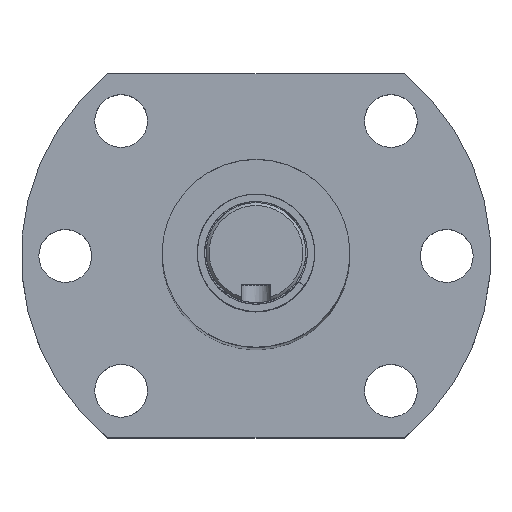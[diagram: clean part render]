
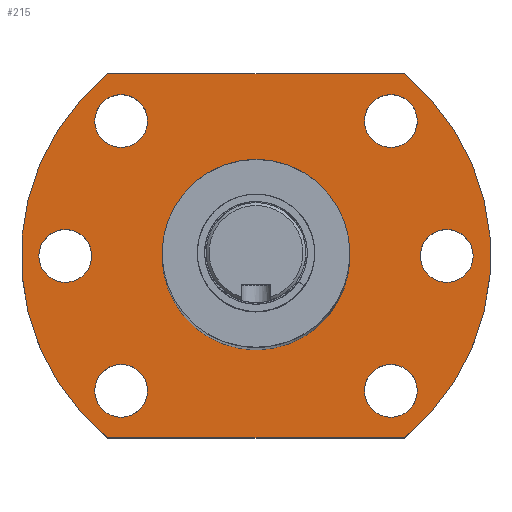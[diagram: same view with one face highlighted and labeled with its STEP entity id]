
A CAD part, top view. The second image highlights one B-rep face of the part: STEP entity #215.
In plain terms, the highlighted planar face has unit normal (0, 0, 1).
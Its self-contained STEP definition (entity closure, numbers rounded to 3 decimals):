
#131=LINE('',#2621,#159);
#132=LINE('',#2626,#160);
#159=VECTOR('',#955,1.);
#160=VECTOR('',#958,1.);
#215=ADVANCED_FACE('',(#279,#280,#281,#282,#283,#284,#285,#286),#248,.T.);
#248=PLANE('',#801);
#279=FACE_BOUND('',#357,.T.);
#280=FACE_BOUND('',#358,.T.);
#281=FACE_BOUND('',#359,.T.);
#282=FACE_BOUND('',#360,.T.);
#283=FACE_BOUND('',#361,.T.);
#284=FACE_BOUND('',#362,.T.);
#285=FACE_BOUND('',#363,.T.);
#286=FACE_BOUND('',#364,.T.);
#357=EDGE_LOOP('',(#501));
#358=EDGE_LOOP('',(#502));
#359=EDGE_LOOP('',(#503));
#360=EDGE_LOOP('',(#504,#505,#506,#507));
#361=EDGE_LOOP('',(#508));
#362=EDGE_LOOP('',(#509));
#363=EDGE_LOOP('',(#510));
#364=EDGE_LOOP('',(#511));
#501=ORIENTED_EDGE('',*,*,#673,.T.);
#502=ORIENTED_EDGE('',*,*,#674,.T.);
#503=ORIENTED_EDGE('',*,*,#675,.T.);
#504=ORIENTED_EDGE('',*,*,#676,.T.);
#505=ORIENTED_EDGE('',*,*,#677,.F.);
#506=ORIENTED_EDGE('',*,*,#678,.F.);
#507=ORIENTED_EDGE('',*,*,#679,.F.);
#508=ORIENTED_EDGE('',*,*,#680,.T.);
#509=ORIENTED_EDGE('',*,*,#681,.T.);
#510=ORIENTED_EDGE('',*,*,#682,.T.);
#511=ORIENTED_EDGE('',*,*,#683,.T.);
#596=VERTEX_POINT('',#2616);
#597=VERTEX_POINT('',#2618);
#598=VERTEX_POINT('',#2620);
#599=VERTEX_POINT('',#2622);
#600=VERTEX_POINT('',#2623);
#601=VERTEX_POINT('',#2625);
#602=VERTEX_POINT('',#2627);
#603=VERTEX_POINT('',#2630);
#604=VERTEX_POINT('',#2632);
#605=VERTEX_POINT('',#2634);
#606=VERTEX_POINT('',#2636);
#673=EDGE_CURVE('',#596,#596,#722,.T.);
#674=EDGE_CURVE('',#597,#597,#723,.T.);
#675=EDGE_CURVE('',#598,#598,#724,.T.);
#676=EDGE_CURVE('',#599,#600,#131,.T.);
#677=EDGE_CURVE('',#601,#600,#725,.T.);
#678=EDGE_CURVE('',#602,#601,#132,.T.);
#679=EDGE_CURVE('',#599,#602,#726,.T.);
#680=EDGE_CURVE('',#603,#603,#727,.T.);
#681=EDGE_CURVE('',#604,#604,#728,.T.);
#682=EDGE_CURVE('',#605,#605,#729,.T.);
#683=EDGE_CURVE('',#606,#606,#730,.T.);
#722=CIRCLE('',#792,4.5);
#723=CIRCLE('',#793,4.5);
#724=CIRCLE('',#794,4.5);
#725=CIRCLE('',#795,40.);
#726=CIRCLE('',#796,40.);
#727=CIRCLE('',#797,16.);
#728=CIRCLE('',#798,4.5);
#729=CIRCLE('',#799,4.5);
#730=CIRCLE('',#800,4.5);
#792=AXIS2_PLACEMENT_3D('',#2615,#949,#950);
#793=AXIS2_PLACEMENT_3D('',#2617,#951,#952);
#794=AXIS2_PLACEMENT_3D('',#2619,#953,#954);
#795=AXIS2_PLACEMENT_3D('',#2624,#956,#957);
#796=AXIS2_PLACEMENT_3D('',#2628,#959,#960);
#797=AXIS2_PLACEMENT_3D('',#2629,#961,#962);
#798=AXIS2_PLACEMENT_3D('',#2631,#963,#964);
#799=AXIS2_PLACEMENT_3D('',#2633,#965,#966);
#800=AXIS2_PLACEMENT_3D('',#2635,#967,#968);
#801=AXIS2_PLACEMENT_3D('',#2637,#969,#970);
#949=DIRECTION('',(0.,0.,-1.));
#950=DIRECTION('',(-1.,0.,0.));
#951=DIRECTION('',(0.,0.,-1.));
#952=DIRECTION('',(1.,0.,0.));
#953=DIRECTION('',(0.,0.,-1.));
#954=DIRECTION('',(0.707,-0.707,0.));
#955=DIRECTION('',(1.,0.,0.));
#956=DIRECTION('',(0.,0.,-1.));
#957=DIRECTION('',(1.,0.,0.));
#958=DIRECTION('',(1.,0.,0.));
#959=DIRECTION('',(0.,0.,-1.));
#960=DIRECTION('',(1.,0.,0.));
#961=DIRECTION('',(0.,0.,-1.));
#962=DIRECTION('',(1.,0.,0.));
#963=DIRECTION('',(0.,0.,-1.));
#964=DIRECTION('',(-0.707,0.707,0.));
#965=DIRECTION('',(0.,0.,-1.));
#966=DIRECTION('',(-0.707,-0.707,0.));
#967=DIRECTION('',(0.,0.,-1.));
#968=DIRECTION('',(0.707,0.707,0.));
#969=DIRECTION('',(0.,0.,1.));
#970=DIRECTION('',(1.,0.,0.));
#2615=CARTESIAN_POINT('',(-32.5,0.,0.));
#2616=CARTESIAN_POINT('',(-37.,0.,0.));
#2617=CARTESIAN_POINT('',(32.5,0.,0.));
#2618=CARTESIAN_POINT('',(37.,0.,0.));
#2619=CARTESIAN_POINT('',(22.981,-22.981,0.));
#2620=CARTESIAN_POINT('',(26.163,-26.163,0.));
#2621=CARTESIAN_POINT('',(0.,-31.,0.));
#2622=CARTESIAN_POINT('',(-25.278,-31.,0.));
#2623=CARTESIAN_POINT('',(25.278,-31.,0.));
#2624=CARTESIAN_POINT('',(0.,0.,0.));
#2625=CARTESIAN_POINT('',(25.278,31.,0.));
#2626=CARTESIAN_POINT('',(0.,31.,0.));
#2627=CARTESIAN_POINT('',(-25.278,31.,0.));
#2628=CARTESIAN_POINT('',(0.,0.,0.));
#2629=CARTESIAN_POINT('',(0.,0.,0.));
#2630=CARTESIAN_POINT('',(16.,0.,0.));
#2631=CARTESIAN_POINT('',(-22.981,22.981,0.));
#2632=CARTESIAN_POINT('',(-26.163,26.163,0.));
#2633=CARTESIAN_POINT('',(-22.981,-22.981,0.));
#2634=CARTESIAN_POINT('',(-26.163,-26.163,0.));
#2635=CARTESIAN_POINT('',(22.981,22.981,0.));
#2636=CARTESIAN_POINT('',(26.163,26.163,0.));
#2637=CARTESIAN_POINT('',(0.,0.,0.));
